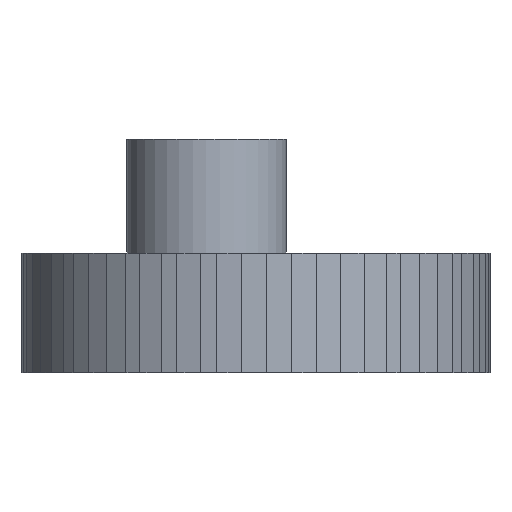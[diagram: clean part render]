
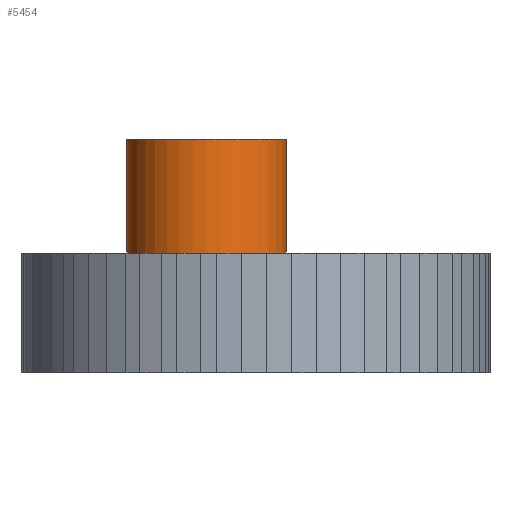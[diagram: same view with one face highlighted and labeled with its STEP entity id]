
A CAD part, left-side view. The second image highlights one B-rep face of the part: STEP entity #5454.
In plain terms, the highlighted cylindrical face has radius 4 mm (diameter 8 mm), a full revolution.
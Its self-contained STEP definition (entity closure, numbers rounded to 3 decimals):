
#72 = PLANE('',#73);
#73 = AXIS2_PLACEMENT_3D('',#74,#75,#76);
#74 = CARTESIAN_POINT('',(-0.948,-0.735,6.));
#75 = DIRECTION('',(0.,0.,1.));
#76 = DIRECTION('',(1.,0.,-0.));
#3636 = EDGE_CURVE('',#3637,#3637,#3639,.T.);
#3637 = VERTEX_POINT('',#3638);
#3638 = CARTESIAN_POINT('',(2.408,2.477,6.));
#3639 = SURFACE_CURVE('',#3640,(#3645,#3652),.PCURVE_S1.);
#3640 = CIRCLE('',#3641,4.);
#3641 = AXIS2_PLACEMENT_3D('',#3642,#3643,#3644);
#3642 = CARTESIAN_POINT('',(-1.592,2.477,6.));
#3643 = DIRECTION('',(0.,0.,1.));
#3644 = DIRECTION('',(1.,0.,-0.));
#3645 = PCURVE('',#72,#3646);
#3646 = DEFINITIONAL_REPRESENTATION('',(#3647),#3651);
#3647 = CIRCLE('',#3648,4.);
#3648 = AXIS2_PLACEMENT_2D('',#3649,#3650);
#3649 = CARTESIAN_POINT('',(-0.644,3.212));
#3650 = DIRECTION('',(1.,0.));
#3651 = ( GEOMETRIC_REPRESENTATION_CONTEXT(2) 
PARAMETRIC_REPRESENTATION_CONTEXT() REPRESENTATION_CONTEXT('2D SPACE',''
  ) );
#3652 = PCURVE('',#3653,#3658);
#3653 = CYLINDRICAL_SURFACE('',#3654,4.);
#3654 = AXIS2_PLACEMENT_3D('',#3655,#3656,#3657);
#3655 = CARTESIAN_POINT('',(-1.592,2.477,6.));
#3656 = DIRECTION('',(0.,0.,1.));
#3657 = DIRECTION('',(1.,0.,-0.));
#3658 = DEFINITIONAL_REPRESENTATION('',(#3659),#3663);
#3659 = LINE('',#3660,#3661);
#3660 = CARTESIAN_POINT('',(0.,0.));
#3661 = VECTOR('',#3662,1.);
#3662 = DIRECTION('',(1.,0.));
#3663 = ( GEOMETRIC_REPRESENTATION_CONTEXT(2) 
PARAMETRIC_REPRESENTATION_CONTEXT() REPRESENTATION_CONTEXT('2D SPACE',''
  ) );
#5420 = PLANE('',#5421);
#5421 = AXIS2_PLACEMENT_3D('',#5422,#5423,#5424);
#5422 = CARTESIAN_POINT('',(-1.592,2.477,11.7));
#5423 = DIRECTION('',(0.,0.,1.));
#5424 = DIRECTION('',(1.,0.,-0.));
#5454 = ADVANCED_FACE('',(#5455),#3653,.T.);
#5455 = FACE_BOUND('',#5456,.T.);
#5456 = EDGE_LOOP('',(#5457,#5481,#5502,#5503));
#5457 = ORIENTED_EDGE('',*,*,#5458,.F.);
#5458 = EDGE_CURVE('',#5459,#5459,#5461,.T.);
#5459 = VERTEX_POINT('',#5460);
#5460 = CARTESIAN_POINT('',(2.408,2.477,11.7));
#5461 = SURFACE_CURVE('',#5462,(#5467,#5474),.PCURVE_S1.);
#5462 = CIRCLE('',#5463,4.);
#5463 = AXIS2_PLACEMENT_3D('',#5464,#5465,#5466);
#5464 = CARTESIAN_POINT('',(-1.592,2.477,11.7));
#5465 = DIRECTION('',(0.,0.,1.));
#5466 = DIRECTION('',(1.,0.,-0.));
#5467 = PCURVE('',#3653,#5468);
#5468 = DEFINITIONAL_REPRESENTATION('',(#5469),#5473);
#5469 = LINE('',#5470,#5471);
#5470 = CARTESIAN_POINT('',(0.,5.7));
#5471 = VECTOR('',#5472,1.);
#5472 = DIRECTION('',(1.,0.));
#5473 = ( GEOMETRIC_REPRESENTATION_CONTEXT(2) 
PARAMETRIC_REPRESENTATION_CONTEXT() REPRESENTATION_CONTEXT('2D SPACE',''
  ) );
#5474 = PCURVE('',#5420,#5475);
#5475 = DEFINITIONAL_REPRESENTATION('',(#5476),#5480);
#5476 = CIRCLE('',#5477,4.);
#5477 = AXIS2_PLACEMENT_2D('',#5478,#5479);
#5478 = CARTESIAN_POINT('',(0.,0.));
#5479 = DIRECTION('',(1.,0.));
#5480 = ( GEOMETRIC_REPRESENTATION_CONTEXT(2) 
PARAMETRIC_REPRESENTATION_CONTEXT() REPRESENTATION_CONTEXT('2D SPACE',''
  ) );
#5481 = ORIENTED_EDGE('',*,*,#5482,.F.);
#5482 = EDGE_CURVE('',#3637,#5459,#5483,.T.);
#5483 = SEAM_CURVE('',#5484,(#5488,#5495),.PCURVE_S1.);
#5484 = LINE('',#5485,#5486);
#5485 = CARTESIAN_POINT('',(2.408,2.477,6.));
#5486 = VECTOR('',#5487,1.);
#5487 = DIRECTION('',(0.,0.,1.));
#5488 = PCURVE('',#3653,#5489);
#5489 = DEFINITIONAL_REPRESENTATION('',(#5490),#5494);
#5490 = LINE('',#5491,#5492);
#5491 = CARTESIAN_POINT('',(6.283,-0.));
#5492 = VECTOR('',#5493,1.);
#5493 = DIRECTION('',(0.,1.));
#5494 = ( GEOMETRIC_REPRESENTATION_CONTEXT(2) 
PARAMETRIC_REPRESENTATION_CONTEXT() REPRESENTATION_CONTEXT('2D SPACE',''
  ) );
#5495 = PCURVE('',#3653,#5496);
#5496 = DEFINITIONAL_REPRESENTATION('',(#5497),#5501);
#5497 = LINE('',#5498,#5499);
#5498 = CARTESIAN_POINT('',(0.,-0.));
#5499 = VECTOR('',#5500,1.);
#5500 = DIRECTION('',(0.,1.));
#5501 = ( GEOMETRIC_REPRESENTATION_CONTEXT(2) 
PARAMETRIC_REPRESENTATION_CONTEXT() REPRESENTATION_CONTEXT('2D SPACE',''
  ) );
#5502 = ORIENTED_EDGE('',*,*,#3636,.T.);
#5503 = ORIENTED_EDGE('',*,*,#5482,.T.);
